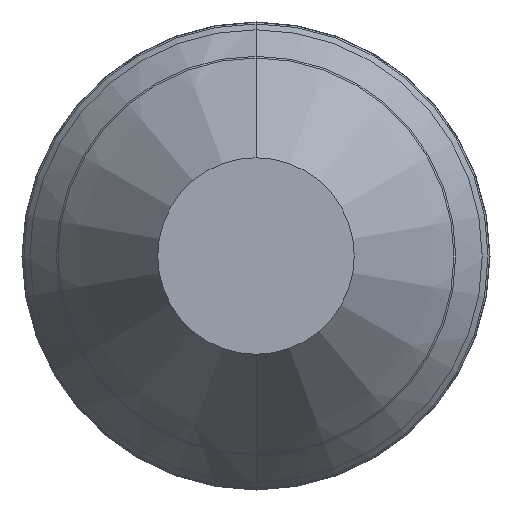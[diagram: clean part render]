
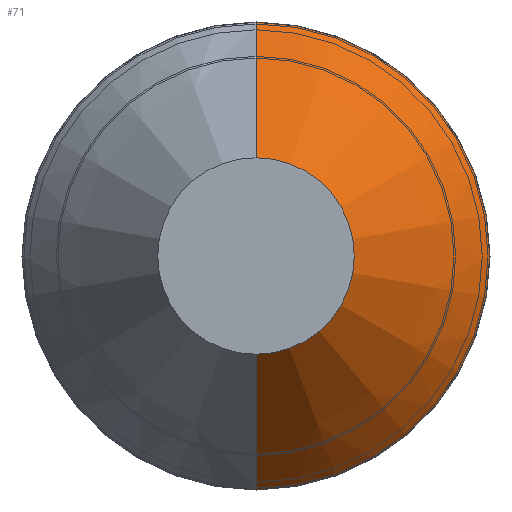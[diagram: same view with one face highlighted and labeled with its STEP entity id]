
A CAD part, front view. The second image highlights one B-rep face of the part: STEP entity #71.
In plain terms, the highlighted conical face has half-angle 34.992 degrees and reference radius 60 mm.
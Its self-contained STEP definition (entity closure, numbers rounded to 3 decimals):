
#1 = AXIS2_PLACEMENT_3D ( 'NONE', #187, #14, #631 ) ;
#14 = DIRECTION ( 'NONE',  ( 0., 1., 0. ) ) ;
#44 = ORIENTED_EDGE ( 'NONE', *, *, #499, .T. ) ;
#50 = CIRCLE ( 'NONE', #321, 59.449 ) ;
#63 = VERTEX_POINT ( 'NONE', #143 ) ;
#71 = ADVANCED_FACE ( 'NONE', ( #550 ), #324, .T. ) ;
#87 = CIRCLE ( 'NONE', #382, 4. ) ;
#143 = CARTESIAN_POINT ( 'NONE',  ( 0., 0., -4. ) ) ;
#149 = VERTEX_POINT ( 'NONE', #276 ) ;
#179 = ORIENTED_EDGE ( 'NONE', *, *, #570, .T. ) ;
#187 = CARTESIAN_POINT ( 'NONE',  ( 0., 80., 0. ) ) ;
#271 = VECTOR ( 'NONE', #398, 1000. ) ;
#276 = CARTESIAN_POINT ( 'NONE',  ( 0., 79.213, -59.449 ) ) ;
#294 = CARTESIAN_POINT ( 'NONE',  ( 0., 79.213, 0. ) ) ;
#296 = CARTESIAN_POINT ( 'NONE',  ( 0., 79.213, 59.449 ) ) ;
#321 = AXIS2_PLACEMENT_3D ( 'NONE', #294, #779, #346 ) ;
#324 = CONICAL_SURFACE ( 'NONE', #1, 60., 0.611 ) ;
#328 = CARTESIAN_POINT ( 'NONE',  ( 0., 0., 4. ) ) ;
#346 = DIRECTION ( 'NONE',  ( 0., 0., -1. ) ) ;
#382 = AXIS2_PLACEMENT_3D ( 'NONE', #664, #722, #651 ) ;
#393 = CARTESIAN_POINT ( 'NONE',  ( 0., 80., -60. ) ) ;
#398 = DIRECTION ( 'NONE',  ( 0., 0.819, -0.573 ) ) ;
#436 = EDGE_CURVE ( 'NONE', #518, #669, #735, .T. ) ;
#490 = ORIENTED_EDGE ( 'NONE', *, *, #436, .F. ) ;
#499 = EDGE_CURVE ( 'NONE', #63, #149, #679, .T. ) ;
#518 = VERTEX_POINT ( 'NONE', #328 ) ;
#550 = FACE_OUTER_BOUND ( 'NONE', #579, .T. ) ;
#569 = DIRECTION ( 'NONE',  ( 0., 0.819, 0.573 ) ) ;
#570 = EDGE_CURVE ( 'NONE', #149, #669, #50, .T. ) ;
#578 = VECTOR ( 'NONE', #569, 1000. ) ;
#579 = EDGE_LOOP ( 'NONE', ( #760, #44, #179, #490 ) ) ;
#631 = DIRECTION ( 'NONE',  ( 0., 0., 1. ) ) ;
#634 = CARTESIAN_POINT ( 'NONE',  ( 0., 80., 60. ) ) ;
#651 = DIRECTION ( 'NONE',  ( 0., 0., -1. ) ) ;
#664 = CARTESIAN_POINT ( 'NONE',  ( 0., 0., 0. ) ) ;
#669 = VERTEX_POINT ( 'NONE', #296 ) ;
#679 = LINE ( 'NONE', #393, #271 ) ;
#684 = EDGE_CURVE ( 'NONE', #63, #518, #87, .T. ) ;
#722 = DIRECTION ( 'NONE',  ( 0., -1., 0. ) ) ;
#735 = LINE ( 'NONE', #634, #578 ) ;
#760 = ORIENTED_EDGE ( 'NONE', *, *, #684, .F. ) ;
#779 = DIRECTION ( 'NONE',  ( 0., -1., 0. ) ) ;
